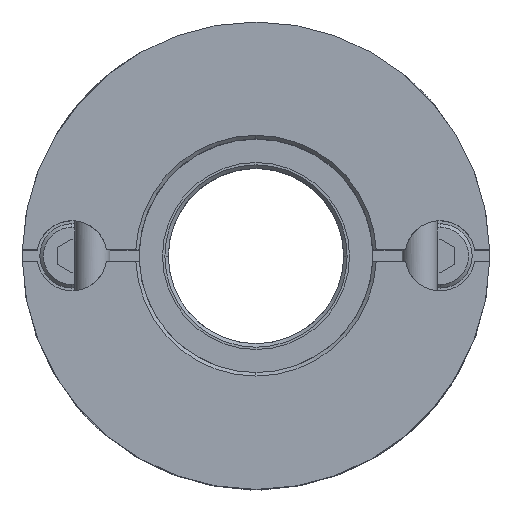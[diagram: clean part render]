
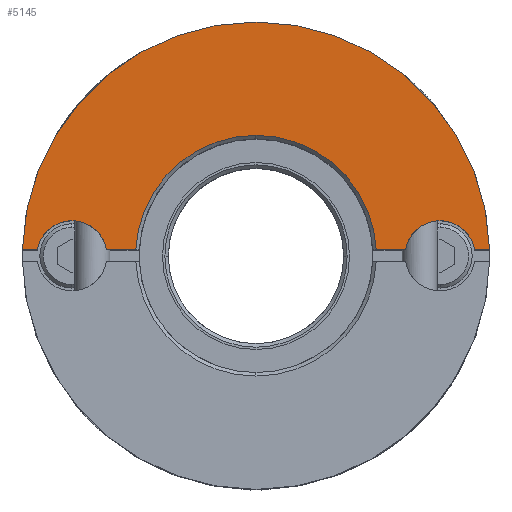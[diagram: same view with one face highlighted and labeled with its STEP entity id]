
A CAD part, top view. The second image highlights one B-rep face of the part: STEP entity #5145.
In plain terms, the highlighted planar face has unit normal (0, 0, 1).
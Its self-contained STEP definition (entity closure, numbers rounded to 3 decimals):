
#1985=CARTESIAN_POINT('',(0.,20.0,15.6));
#1986=VERTEX_POINT('',#1985);
#2070=CARTESIAN_POINT('',(-19.994,0.5,15.6));
#2071=VERTEX_POINT('',#2070);
#2078=CARTESIAN_POINT('',(0.,0.,15.6));
#2079=DIRECTION('',(0.0,0.0,-1.0));
#2080=DIRECTION('',(0.0,1.0,0.0));
#2081=AXIS2_PLACEMENT_3D('',#2078,#2079,#2080);
#2082=CIRCLE('',#2081,20.0);
#2083=EDGE_CURVE('',#2071,#1986,#2082,.T.);
#2369=CARTESIAN_POINT('',(0.,10.3,15.6));
#2370=VERTEX_POINT('',#2369);
#2377=CARTESIAN_POINT('',(-10.288,0.5,15.6));
#2378=VERTEX_POINT('',#2377);
#2379=CARTESIAN_POINT('',(0.,0.,15.6));
#2380=DIRECTION('',(0.0,0.0,1.0));
#2381=DIRECTION('',(0.0,-1.0,0.0));
#2382=AXIS2_PLACEMENT_3D('',#2379,#2380,#2381);
#2383=CIRCLE('',#2382,10.3);
#2384=EDGE_CURVE('',#2370,#2378,#2383,.T.);
#2447=CARTESIAN_POINT('',(15.75,3.,15.6));
#2448=VERTEX_POINT('',#2447);
#2457=CARTESIAN_POINT('',(12.792,0.5,15.6));
#2458=VERTEX_POINT('',#2457);
#2459=CARTESIAN_POINT('',(15.75,0.,15.6));
#2460=DIRECTION('',(0.0,0.0,-1.0));
#2461=DIRECTION('',(0.0,1.0,0.0));
#2462=AXIS2_PLACEMENT_3D('',#2459,#2460,#2461);
#2463=CIRCLE('',#2462,3.0);
#2464=EDGE_CURVE('',#2458,#2448,#2463,.T.);
#2655=CARTESIAN_POINT('',(-15.75,3.,15.6));
#2656=VERTEX_POINT('',#2655);
#2665=CARTESIAN_POINT('',(-18.708,0.5,15.6));
#2666=VERTEX_POINT('',#2665);
#2667=CARTESIAN_POINT('',(-15.75,0.,15.6));
#2668=DIRECTION('',(0.0,0.0,-1.0));
#2669=DIRECTION('',(0.0,1.0,0.0));
#2670=AXIS2_PLACEMENT_3D('',#2667,#2668,#2669);
#2671=CIRCLE('',#2670,3.0);
#2672=EDGE_CURVE('',#2666,#2656,#2671,.T.);
#4047=CARTESIAN_POINT('',(10.288,0.5,15.6));
#4048=VERTEX_POINT('',#4047);
#4049=CARTESIAN_POINT('',(10.288,0.5,15.6));
#4050=DIRECTION('',(1.0,0.0,0.0));
#4051=VECTOR('',#4050,2.504);
#4052=LINE('',#4049,#4051);
#4053=EDGE_CURVE('',#4048,#2458,#4052,.T.);
#4337=CARTESIAN_POINT('',(-12.792,0.5,15.6));
#4338=VERTEX_POINT('',#4337);
#4339=CARTESIAN_POINT('',(-12.792,0.5,15.6));
#4340=DIRECTION('',(1.0,0.0,0.0));
#4341=VECTOR('',#4340,2.504);
#4342=LINE('',#4339,#4341);
#4343=EDGE_CURVE('',#4338,#2378,#4342,.T.);
#4966=CARTESIAN_POINT('',(-15.75,0.,15.6));
#4967=DIRECTION('',(0.0,0.0,-1.0));
#4968=DIRECTION('',(0.0,1.0,0.0));
#4969=AXIS2_PLACEMENT_3D('',#4966,#4967,#4968);
#4970=CIRCLE('',#4969,3.0);
#4971=EDGE_CURVE('',#2656,#4338,#4970,.T.);
#5024=CARTESIAN_POINT('',(18.708,0.5,15.6));
#5025=VERTEX_POINT('',#5024);
#5032=CARTESIAN_POINT('',(15.75,0.,15.6));
#5033=DIRECTION('',(0.0,0.0,-1.0));
#5034=DIRECTION('',(0.0,1.0,0.0));
#5035=AXIS2_PLACEMENT_3D('',#5032,#5033,#5034);
#5036=CIRCLE('',#5035,3.0);
#5037=EDGE_CURVE('',#2448,#5025,#5036,.T.);
#5048=CARTESIAN_POINT('',(-19.994,0.5,15.6));
#5049=DIRECTION('',(1.0,0.0,0.0));
#5050=VECTOR('',#5049,1.286);
#5051=LINE('',#5048,#5050);
#5052=EDGE_CURVE('',#2071,#2666,#5051,.T.);
#5107=CARTESIAN_POINT('',(0.,1.818,15.6));
#5108=DIRECTION('',(0.0,0.0,1.0));
#5109=DIRECTION('',(0.0,1.0,0.0));
#5110=AXIS2_PLACEMENT_3D('',#5107,#5108,#5109);
#5111=PLANE('',#5110);
#5112=ORIENTED_EDGE('',*,*,#2672,.T.);
#5113=ORIENTED_EDGE('',*,*,#4971,.T.);
#5114=ORIENTED_EDGE('',*,*,#4343,.T.);
#5115=ORIENTED_EDGE('',*,*,#2384,.F.);
#5116=CARTESIAN_POINT('',(0.,0.,15.6));
#5117=DIRECTION('',(0.0,0.0,1.0));
#5118=DIRECTION('',(0.0,-1.0,0.0));
#5119=AXIS2_PLACEMENT_3D('',#5116,#5117,#5118);
#5120=CIRCLE('',#5119,10.3);
#5121=EDGE_CURVE('',#4048,#2370,#5120,.T.);
#5122=ORIENTED_EDGE('',*,*,#5121,.F.);
#5123=ORIENTED_EDGE('',*,*,#4053,.T.);
#5124=ORIENTED_EDGE('',*,*,#2464,.T.);
#5125=ORIENTED_EDGE('',*,*,#5037,.T.);
#5126=CARTESIAN_POINT('',(19.994,0.5,15.6));
#5127=VERTEX_POINT('',#5126);
#5128=CARTESIAN_POINT('',(18.708,0.5,15.6));
#5129=DIRECTION('',(1.0,0.0,0.0));
#5130=VECTOR('',#5129,1.286);
#5131=LINE('',#5128,#5130);
#5132=EDGE_CURVE('',#5025,#5127,#5131,.T.);
#5133=ORIENTED_EDGE('',*,*,#5132,.T.);
#5134=CARTESIAN_POINT('',(0.,0.,15.6));
#5135=DIRECTION('',(0.0,0.0,-1.0));
#5136=DIRECTION('',(0.0,1.0,0.0));
#5137=AXIS2_PLACEMENT_3D('',#5134,#5135,#5136);
#5138=CIRCLE('',#5137,20.0);
#5139=EDGE_CURVE('',#1986,#5127,#5138,.T.);
#5140=ORIENTED_EDGE('',*,*,#5139,.F.);
#5141=ORIENTED_EDGE('',*,*,#2083,.F.);
#5142=ORIENTED_EDGE('',*,*,#5052,.T.);
#5143=EDGE_LOOP('',(#5112,#5113,#5114,#5115,#5122,#5123,#5124,#5125,#5133,#5140,#5141,#5142));
#5144=FACE_OUTER_BOUND('',#5143,.T.);
#5145=ADVANCED_FACE('',(#5144),#5111,.T.);
